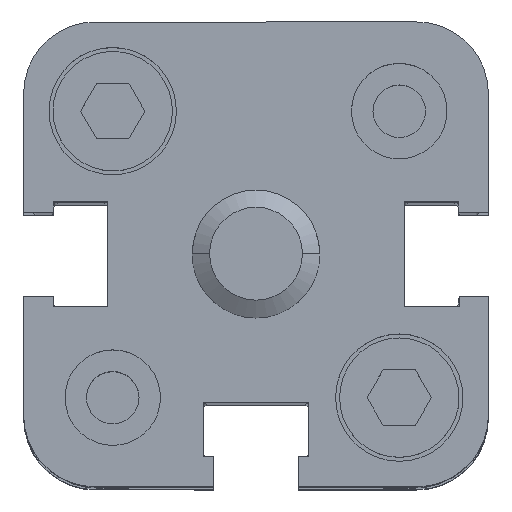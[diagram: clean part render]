
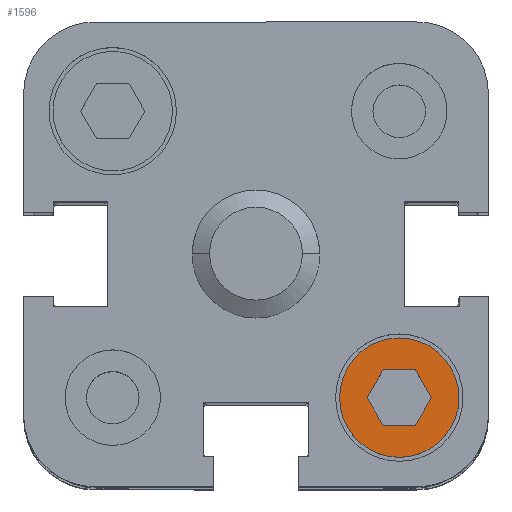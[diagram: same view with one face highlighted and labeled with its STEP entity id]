
A CAD part, top view. The second image highlights one B-rep face of the part: STEP entity #1596.
In plain terms, the highlighted planar face has unit normal (0, 0, 1).
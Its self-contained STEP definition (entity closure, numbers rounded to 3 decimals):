
#568 = EDGE_CURVE ( 'NONE', #569, #10249, #2819, .T. ) ;
#569 = VERTEX_POINT ( 'NONE', #2814 ) ;
#1578 = ORIENTED_EDGE ( 'NONE', *, *, #1579, .T. ) ;
#1579 = EDGE_CURVE ( 'NONE', #1604, #1580, #4829, .T. ) ;
#1580 = VERTEX_POINT ( 'NONE', #4825 ) ;
#1581 = ORIENTED_EDGE ( 'NONE', *, *, #1583, .F. ) ;
#1583 = EDGE_CURVE ( 'NONE', #1584, #1580, #4819, .T. ) ;
#1584 = VERTEX_POINT ( 'NONE', #4815 ) ;
#1585 = ORIENTED_EDGE ( 'NONE', *, *, #1586, .T. ) ;
#1586 = EDGE_CURVE ( 'NONE', #1584, #1587, #4814, .T. ) ;
#1587 = VERTEX_POINT ( 'NONE', #4810 ) ;
#1588 = ORIENTED_EDGE ( 'NONE', *, *, #1589, .T. ) ;
#1589 = EDGE_CURVE ( 'NONE', #1587, #1590, #4809, .T. ) ;
#1590 = VERTEX_POINT ( 'NONE', #4805 ) ;
#1591 = ORIENTED_EDGE ( 'NONE', *, *, #1592, .F. ) ;
#1592 = EDGE_CURVE ( 'NONE', #1605, #1590, #4862, .T. ) ;
#1596 = ADVANCED_FACE ( 'NONE', ( #4858, #4857 ), #4842, .T. ) ;
#1597 = EDGE_LOOP ( 'NONE', ( #1598, #1599 ) ) ;
#1598 = ORIENTED_EDGE ( 'NONE', *, *, #568, .T. ) ;
#1599 = ORIENTED_EDGE ( 'NONE', *, *, #1600, .T. ) ;
#1600 = EDGE_CURVE ( 'NONE', #10249, #569, #4841, .T. ) ;
#1601 = EDGE_LOOP ( 'NONE', ( #1602, #1578, #1581, #1585, #1588, #1591 ) ) ;
#1602 = ORIENTED_EDGE ( 'NONE', *, *, #1603, .F. ) ;
#1603 = EDGE_CURVE ( 'NONE', #1604, #1605, #4889, .T. ) ;
#1604 = VERTEX_POINT ( 'NONE', #4885 ) ;
#1605 = VERTEX_POINT ( 'NONE', #4884 ) ;
#2814 = CARTESIAN_POINT ( 'NONE',  ( 12.248, -7.125, 13.5 ) ) ;
#2815 = DIRECTION ( 'NONE',  ( 0.866, 0.5, 0. ) ) ;
#2816 = DIRECTION ( 'NONE',  ( 0., 0., 1. ) ) ;
#2817 = CARTESIAN_POINT ( 'NONE',  ( 9., -9., 13.5 ) ) ;
#2818 = AXIS2_PLACEMENT_3D ( 'NONE', #2817, #2816, #2815 ) ;
#2819 = CIRCLE ( 'NONE', #2818, 3.75 ) ;
#4805 = CARTESIAN_POINT ( 'NONE',  ( 7.99, -10.75, 13.5 ) ) ;
#4806 = DIRECTION ( 'NONE',  ( -1., 0., 0. ) ) ;
#4807 = VECTOR ( 'NONE', #4806, 1000. ) ;
#4808 = CARTESIAN_POINT ( 'NONE',  ( 10.01, -10.75, 13.5 ) ) ;
#4809 = LINE ( 'NONE', #4808, #4807 ) ;
#4810 = CARTESIAN_POINT ( 'NONE',  ( 10.01, -10.75, 13.5 ) ) ;
#4811 = DIRECTION ( 'NONE',  ( -0.5, -0.866, 0. ) ) ;
#4812 = VECTOR ( 'NONE', #4811, 1000. ) ;
#4813 = CARTESIAN_POINT ( 'NONE',  ( 11.021, -9., 13.5 ) ) ;
#4814 = LINE ( 'NONE', #4813, #4812 ) ;
#4815 = CARTESIAN_POINT ( 'NONE',  ( 11.021, -9., 13.5 ) ) ;
#4816 = DIRECTION ( 'NONE',  ( -0.5, 0.866, 0. ) ) ;
#4817 = VECTOR ( 'NONE', #4816, 1000. ) ;
#4818 = CARTESIAN_POINT ( 'NONE',  ( 11.021, -9., 13.5 ) ) ;
#4819 = LINE ( 'NONE', #4818, #4817 ) ;
#4825 = CARTESIAN_POINT ( 'NONE',  ( 10.01, -7.25, 13.5 ) ) ;
#4826 = DIRECTION ( 'NONE',  ( 1., 0., 0. ) ) ;
#4827 = VECTOR ( 'NONE', #4826, 1000. ) ;
#4828 = CARTESIAN_POINT ( 'NONE',  ( 7.99, -7.25, 13.5 ) ) ;
#4829 = LINE ( 'NONE', #4828, #4827 ) ;
#4835 = CARTESIAN_POINT ( 'NONE',  ( 9., -9., 13.5 ) ) ;
#4836 = AXIS2_PLACEMENT_3D ( 'NONE', #4835, #4891, #4890 ) ;
#4837 = DIRECTION ( 'NONE',  ( 0.866, 0.5, 0. ) ) ;
#4838 = DIRECTION ( 'NONE',  ( 0., 0., 1. ) ) ;
#4839 = CARTESIAN_POINT ( 'NONE',  ( 9., -9., 13.5 ) ) ;
#4840 = AXIS2_PLACEMENT_3D ( 'NONE', #4839, #4838, #4837 ) ;
#4841 = CIRCLE ( 'NONE', #4836, 3.75 ) ;
#4842 = PLANE ( 'NONE',  #4840 ) ;
#4857 = FACE_BOUND ( 'NONE', #1601, .T. ) ;
#4858 = FACE_OUTER_BOUND ( 'NONE', #1597, .T. ) ;
#4859 = DIRECTION ( 'NONE',  ( 0.5, -0.866, 0. ) ) ;
#4860 = VECTOR ( 'NONE', #4859, 1000. ) ;
#4861 = CARTESIAN_POINT ( 'NONE',  ( 6.979, -9., 13.5 ) ) ;
#4862 = LINE ( 'NONE', #4861, #4860 ) ;
#4884 = CARTESIAN_POINT ( 'NONE',  ( 6.979, -9., 13.5 ) ) ;
#4885 = CARTESIAN_POINT ( 'NONE',  ( 7.99, -7.25, 13.5 ) ) ;
#4886 = DIRECTION ( 'NONE',  ( -0.5, -0.866, 0. ) ) ;
#4887 = VECTOR ( 'NONE', #4886, 1000. ) ;
#4888 = CARTESIAN_POINT ( 'NONE',  ( 7.99, -7.25, 13.5 ) ) ;
#4889 = LINE ( 'NONE', #4888, #4887 ) ;
#4890 = DIRECTION ( 'NONE',  ( 0.866, 0.5, 0. ) ) ;
#4891 = DIRECTION ( 'NONE',  ( 0., 0., 1. ) ) ;
#10249 = VERTEX_POINT ( 'NONE', #12574 ) ;
#12574 = CARTESIAN_POINT ( 'NONE',  ( 5.752, -10.875, 13.5 ) ) ;
